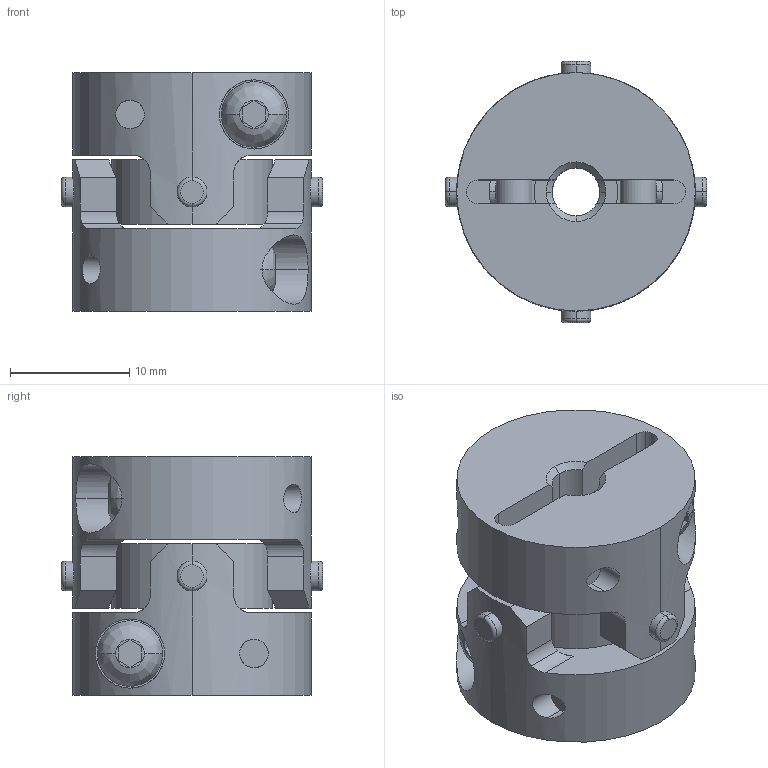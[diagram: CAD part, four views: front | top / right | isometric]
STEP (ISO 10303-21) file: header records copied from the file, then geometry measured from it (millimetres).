
FILE_DESCRIPTION((''),'2;1');
FILE_NAME('UA-20C-4×4.stp','2013-05-16T09:00:31',(''),(''),'AutoCAD STEP 2000i','AutoCAD 2000i',', , ');
FILE_SCHEMA(('CONFIG_CONTROL_DESIGN'));
Length unit declared in the file: millimetre
Products named in the file (6): UA-20C-4×4; 忣兜1; UA-2002-D04-1; BTN-M3; UA-2002-D04; UA20-SEN
Assembly tree (6 placements, depth 3):
  UA-20C-4×4
    忣兜1
    UA-2002-D04-1
      BTN-M3
    UA-2002-D04
      BTN-M3
    UA20-SEN
Bounding box: 21.89 x 21.89 x 20 mm (x, y, z)
Volume: 4607.4 mm3; surface area: 3883 mm2
Topology: 1 solids, 1 shells, 206 faces, 554 edges, 364 vertices
Faces by surface type: cylinder 96, plane 78, cone 16, bspline 8, torus 8
Entity records: 8011 total; most frequent: CARTESIAN_POINT 2695, ORIENTED_EDGE 1108, DIRECTION 1064, EDGE_CURVE 554, AXIS2_PLACEMENT_3D 409, VERTEX_POINT 364, VECTOR 246, LINE 246
